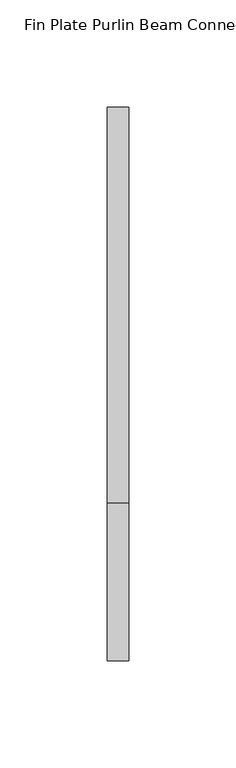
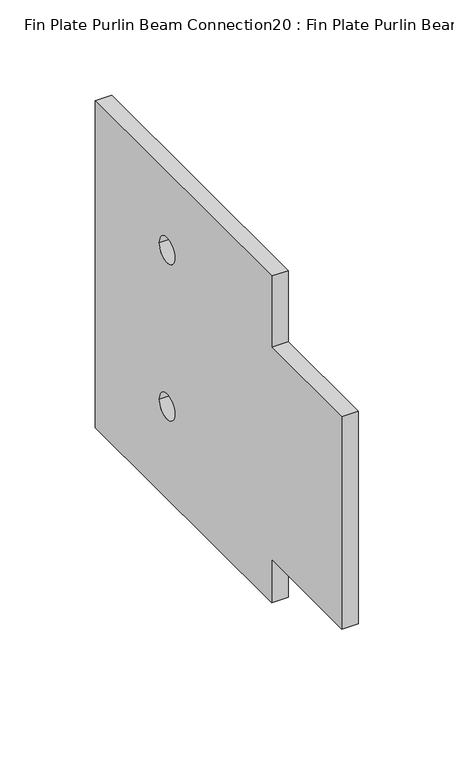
"""IFC4 building model written with IfcOpenShell, lengths in millimetres: proxy geometry, Fin Plate Purlin Beam Connection20 : Fin Plate Purlin Beam Connection."""

from ifc_helpers import new_model, si_unit, point, frame, frame_2d, origin, place, context, project, spatial, polyline, circle_curve, trimmed, segment, composite_curve, outline, extrude, source, transform, mapped, element, save


def fin_plate_purlin_beam_connection20_fin_plate_purlin_beam_3d1b8796(model_context):
    return source(origin(), model_context, "Body", "SweptSolid", [
        extrude(outline(polyline([(15858.023117, 2454.7182916), (15858.023117, 2590.5), (15931.623117, 2590.5), (15931.623117, 2635.9566779), (16116.223117, 2635.9566779), (16116.223117, 2427.0006295), (15931.623117, 2427.0006295), (15931.623117, 2454.7182916), (15858.023117, 2454.7182916)]), holes=[composite_curve([segment(trimmed(circle_curve(frame_2d((16041.223117, 2585.9566779)), 8.0), [point((16033.223117, 2585.9566779))], [point((16049.223117, 2585.9566779))], True, "CARTESIAN"), True, "CONTINUOUS"), segment(trimmed(circle_curve(frame_2d((16041.223117, 2585.9566779)), 8.0), [point((16049.223117, 2585.9566779))], [point((16033.223117, 2585.9566779))], True, "CARTESIAN"), True, "CONTINUOUS")], self_intersect=False), composite_curve([segment(trimmed(circle_curve(frame_2d((16041.223117, 2485.9566779)), 8.0), [point((16033.223117, 2485.9566779))], [point((16049.223117, 2485.9566779))], True, "CARTESIAN"), True, "CONTINUOUS"), segment(trimmed(circle_curve(frame_2d((16041.223117, 2485.9566779)), 8.0), [point((16049.223117, 2485.9566779))], [point((16033.223117, 2485.9566779))], True, "CARTESIAN"), True, "CONTINUOUS")], self_intersect=False)]), frame((-29366.0036256, 0.0, 0.0), z_axis=(1.0, 0.0, 0.0), x_axis=(0.0, 1.0, 0.0)), (0.0, 0.0, 1.0), 10.0),
    ])


if __name__ == "__main__":
    model = new_model("IFC4")
    model_context = context("Model", 3, world=origin())
    ifc_project = project(units=[si_unit("LENGTHUNIT", "METRE", prefix="MILLI")], contexts=[model_context])
    site = spatial("IfcSite", under=ifc_project)
    building = spatial("IfcBuilding", under=site)
    placement = place(None, origin())
    fin_plate_purlin_beam_connection20_fin_plate_purlin_beam_shape = fin_plate_purlin_beam_connection20_fin_plate_purlin_beam_3d1b8796(model_context)
    element("IfcBuildingElementProxy", 1, Name="Fin Plate Purlin Beam Connection20 : Fin Plate Purlin Beam Connection", ObjectType="Fin Plate Purlin Beam Connection20 : Fin Plate Purlin Beam Connection", at=placement, inside=building, context=model_context, shape_type="MappedRepresentation", body=[
        mapped(fin_plate_purlin_beam_connection20_fin_plate_purlin_beam_shape, transform((0.0, 0.0, 0.0), x_axis=(1.0, 0.0, 0.0), y_axis=(0.0, 1.0, 0.0), z_axis=(0.0, 0.0, 1.0))),
    ])
    save(model, "model.ifc")
